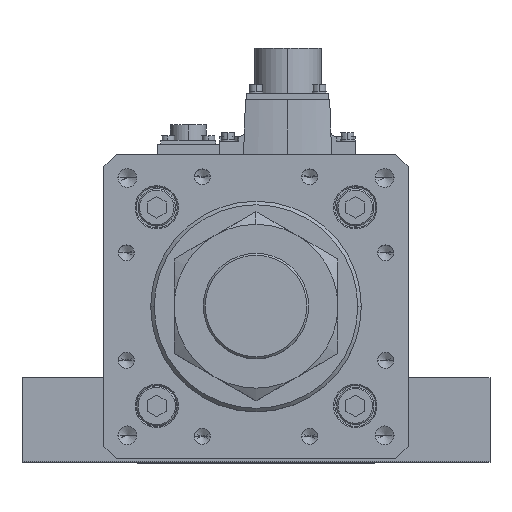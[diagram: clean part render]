
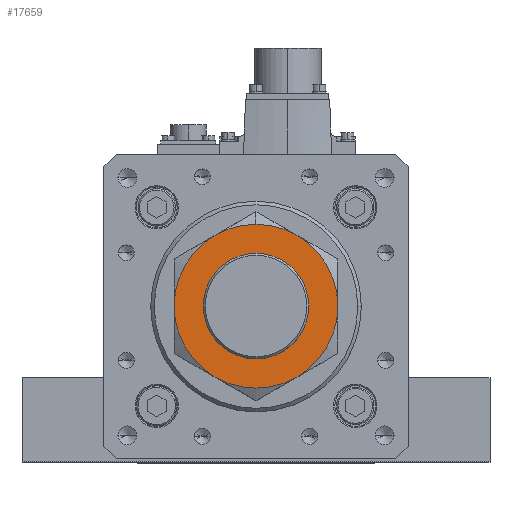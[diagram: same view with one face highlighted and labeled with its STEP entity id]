
A CAD part, top view. The second image highlights one B-rep face of the part: STEP entity #17659.
In plain terms, the highlighted planar face has unit normal (0, 0, 1).
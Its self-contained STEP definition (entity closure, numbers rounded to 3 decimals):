
#46 = FACE_OUTER_BOUND ( 'NONE', #16068, .T. ) ;
#1083 = DIRECTION ( 'NONE',  ( 0., 0., -1. ) ) ;
#1388 = ORIENTED_EDGE ( 'NONE', *, *, #11146, .F. ) ;
#1673 = DIRECTION ( 'NONE',  ( 0., 0., 1. ) ) ;
#1913 = CARTESIAN_POINT ( 'NONE',  ( 0., 0., 27. ) ) ;
#2452 = CARTESIAN_POINT ( 'NONE',  ( -17.5, 30.311, 27. ) ) ;
#2573 = VERTEX_POINT ( 'NONE', #35275 ) ;
#2808 = VERTEX_POINT ( 'NONE', #22927 ) ;
#3466 = CARTESIAN_POINT ( 'NONE',  ( 0., 0., 27. ) ) ;
#3712 = AXIS2_PLACEMENT_3D ( 'NONE', #3466, #15582, #28174 ) ;
#4261 = CIRCLE ( 'NONE', #34571, 35. ) ;
#4400 = CARTESIAN_POINT ( 'NONE',  ( 17.5, 30.311, 27. ) ) ;
#5550 = CARTESIAN_POINT ( 'NONE',  ( 0., 35., 27. ) ) ;
#5687 = DIRECTION ( 'NONE',  ( 0., 1., 0. ) ) ;
#5781 = ORIENTED_EDGE ( 'NONE', *, *, #28727, .F. ) ;
#5982 = VERTEX_POINT ( 'NONE', #24879 ) ;
#6906 = DIRECTION ( 'NONE',  ( 0., 1., 0. ) ) ;
#7755 = ORIENTED_EDGE ( 'NONE', *, *, #18052, .F. ) ;
#8632 = CIRCLE ( 'NONE', #22632, 35. ) ;
#10093 = DIRECTION ( 'NONE',  ( 0., 1., 0. ) ) ;
#10289 = CIRCLE ( 'NONE', #3712, 35. ) ;
#10323 = CARTESIAN_POINT ( 'NONE',  ( 0., 0., 27. ) ) ;
#10747 = CIRCLE ( 'NONE', #36079, 22.5 ) ;
#10828 = VERTEX_POINT ( 'NONE', #11776 ) ;
#11146 = EDGE_CURVE ( 'NONE', #21869, #30725, #4261, .T. ) ;
#11433 = AXIS2_PLACEMENT_3D ( 'NONE', #27098, #24491, #33908 ) ;
#11776 = CARTESIAN_POINT ( 'NONE',  ( -22.5, 0., 27. ) ) ;
#15172 = AXIS2_PLACEMENT_3D ( 'NONE', #38731, #32186, #32460 ) ;
#15372 = CIRCLE ( 'NONE', #26291, 35. ) ;
#15582 = DIRECTION ( 'NONE',  ( 0., 0., -1. ) ) ;
#16068 = EDGE_LOOP ( 'NONE', ( #37826, #32441, #39975, #1388, #31963, #5781, #16755 ) ) ;
#16152 = EDGE_CURVE ( 'NONE', #5982, #10828, #27924, .T. ) ;
#16571 = DIRECTION ( 'NONE',  ( 0., 0., -1. ) ) ;
#16755 = ORIENTED_EDGE ( 'NONE', *, *, #35980, .F. ) ;
#16872 = PLANE ( 'NONE',  #15172 ) ;
#17659 = ADVANCED_FACE ( 'NONE', ( #46, #32741 ), #16872, .T. ) ;
#18052 = EDGE_CURVE ( 'NONE', #10828, #5982, #10747, .T. ) ;
#18247 = CARTESIAN_POINT ( 'NONE',  ( 0., 0., 27. ) ) ;
#20969 = CIRCLE ( 'NONE', #28285, 35. ) ;
#21869 = VERTEX_POINT ( 'NONE', #2452 ) ;
#21924 = DIRECTION ( 'NONE',  ( 1., 0., 0. ) ) ;
#22632 = AXIS2_PLACEMENT_3D ( 'NONE', #38154, #35022, #6906 ) ;
#22927 = CARTESIAN_POINT ( 'NONE',  ( -35., 0., 27. ) ) ;
#23003 = EDGE_CURVE ( 'NONE', #34161, #2573, #15372, .T. ) ;
#23057 = CARTESIAN_POINT ( 'NONE',  ( 0., 0., 27. ) ) ;
#23479 = DIRECTION ( 'NONE',  ( 0., 0., -1. ) ) ;
#23582 = VERTEX_POINT ( 'NONE', #4400 ) ;
#24122 = DIRECTION ( 'NONE',  ( 0., 0., -1. ) ) ;
#24491 = DIRECTION ( 'NONE',  ( 0., 0., -1. ) ) ;
#24879 = CARTESIAN_POINT ( 'NONE',  ( 22.5, 0., 27. ) ) ;
#26291 = AXIS2_PLACEMENT_3D ( 'NONE', #10323, #16571, #38421 ) ;
#27056 = EDGE_CURVE ( 'NONE', #30725, #23582, #27322, .T. ) ;
#27098 = CARTESIAN_POINT ( 'NONE',  ( 0., 0., 27. ) ) ;
#27322 = CIRCLE ( 'NONE', #32477, 35. ) ;
#27413 = AXIS2_PLACEMENT_3D ( 'NONE', #32781, #1673, #35775 ) ;
#27924 = CIRCLE ( 'NONE', #27413, 22.5 ) ;
#28174 = DIRECTION ( 'NONE',  ( 0., 1., 0. ) ) ;
#28285 = AXIS2_PLACEMENT_3D ( 'NONE', #18247, #24122, #5687 ) ;
#28476 = CARTESIAN_POINT ( 'NONE',  ( 0., 0., 27. ) ) ;
#28727 = EDGE_CURVE ( 'NONE', #30816, #2808, #8632, .T. ) ;
#29737 = DIRECTION ( 'NONE',  ( 0., 1., 0. ) ) ;
#30469 = ORIENTED_EDGE ( 'NONE', *, *, #16152, .F. ) ;
#30725 = VERTEX_POINT ( 'NONE', #5550 ) ;
#30816 = VERTEX_POINT ( 'NONE', #33795 ) ;
#31963 = ORIENTED_EDGE ( 'NONE', *, *, #39804, .F. ) ;
#32186 = DIRECTION ( 'NONE',  ( 0., 0., 1. ) ) ;
#32249 = CARTESIAN_POINT ( 'NONE',  ( 35., 0., 27. ) ) ;
#32441 = ORIENTED_EDGE ( 'NONE', *, *, #35656, .F. ) ;
#32460 = DIRECTION ( 'NONE',  ( 1., 0., 0. ) ) ;
#32477 = AXIS2_PLACEMENT_3D ( 'NONE', #23057, #1083, #10093 ) ;
#32692 = CIRCLE ( 'NONE', #11433, 35. ) ;
#32741 = FACE_BOUND ( 'NONE', #37317, .T. ) ;
#32781 = CARTESIAN_POINT ( 'NONE',  ( 0., 0., 27. ) ) ;
#33795 = CARTESIAN_POINT ( 'NONE',  ( -17.5, -30.311, 27. ) ) ;
#33908 = DIRECTION ( 'NONE',  ( 0., 1., 0. ) ) ;
#34161 = VERTEX_POINT ( 'NONE', #32249 ) ;
#34571 = AXIS2_PLACEMENT_3D ( 'NONE', #1913, #23479, #29737 ) ;
#35022 = DIRECTION ( 'NONE',  ( 0., 0., -1. ) ) ;
#35275 = CARTESIAN_POINT ( 'NONE',  ( 17.5, -30.311, 27. ) ) ;
#35656 = EDGE_CURVE ( 'NONE', #23582, #34161, #10289, .T. ) ;
#35775 = DIRECTION ( 'NONE',  ( 1., 0., 0. ) ) ;
#35980 = EDGE_CURVE ( 'NONE', #2573, #30816, #20969, .T. ) ;
#36079 = AXIS2_PLACEMENT_3D ( 'NONE', #28476, #40463, #21924 ) ;
#37317 = EDGE_LOOP ( 'NONE', ( #7755, #30469 ) ) ;
#37826 = ORIENTED_EDGE ( 'NONE', *, *, #23003, .F. ) ;
#38154 = CARTESIAN_POINT ( 'NONE',  ( 0., 0., 27. ) ) ;
#38421 = DIRECTION ( 'NONE',  ( 0., 1., 0. ) ) ;
#38731 = CARTESIAN_POINT ( 'NONE',  ( 0., 0., 27. ) ) ;
#39804 = EDGE_CURVE ( 'NONE', #2808, #21869, #32692, .T. ) ;
#39975 = ORIENTED_EDGE ( 'NONE', *, *, #27056, .F. ) ;
#40463 = DIRECTION ( 'NONE',  ( 0., 0., 1. ) ) ;
